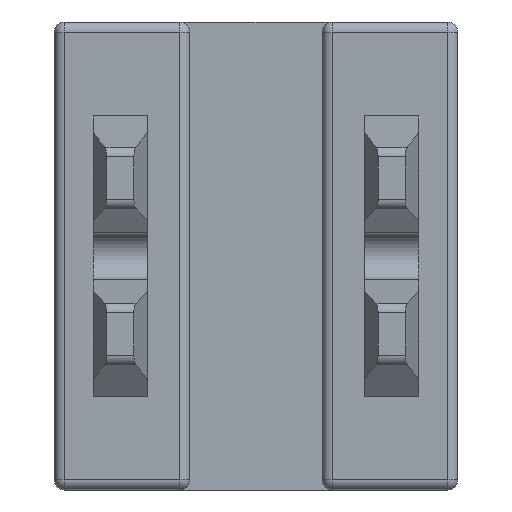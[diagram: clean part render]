
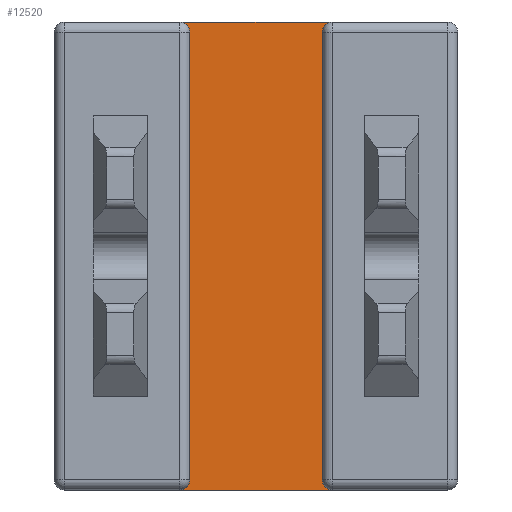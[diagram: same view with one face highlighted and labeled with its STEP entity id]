
A CAD part, front view. The second image highlights one B-rep face of the part: STEP entity #12520.
In plain terms, the highlighted planar face has unit normal (0, -1, 0).
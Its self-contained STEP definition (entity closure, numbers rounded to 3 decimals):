
#674 = DIRECTION ( 'NONE',  ( 0., 1., 0. ) ) ;
#725 = DIRECTION ( 'NONE',  ( 0., 0., -1. ) ) ;
#735 = DIRECTION ( 'NONE',  ( 0., 0., -1. ) ) ;
#988 = ORIENTED_EDGE ( 'NONE', *, *, #9536, .T. ) ;
#1054 = ORIENTED_EDGE ( 'NONE', *, *, #11348, .T. ) ;
#1108 = VECTOR ( 'NONE', #14407, 1000. ) ;
#1340 = CARTESIAN_POINT ( 'NONE',  ( 2.25, -15.5, -0.3 ) ) ;
#1492 = CARTESIAN_POINT ( 'NONE',  ( 1.95, -15.5, -13.8 ) ) ;
#1939 = VECTOR ( 'NONE', #8074, 1000. ) ;
#1974 = EDGE_CURVE ( 'NONE', #9831, #2101, #10113, .T. ) ;
#2042 = EDGE_CURVE ( 'NONE', #4751, #3419, #12287, .T. ) ;
#2054 = AXIS2_PLACEMENT_3D ( 'NONE', #1340, #2447, #7154 ) ;
#2101 = VERTEX_POINT ( 'NONE', #5265 ) ;
#2147 = EDGE_CURVE ( 'NONE', #8389, #2101, #7379, .T. ) ;
#2208 = DIRECTION ( 'NONE',  ( 0., 0., -1. ) ) ;
#2447 = DIRECTION ( 'NONE',  ( 0., 1., 0. ) ) ;
#2713 = CARTESIAN_POINT ( 'NONE',  ( -1.95, -15.5, -13.5 ) ) ;
#3030 = DIRECTION ( 'NONE',  ( 0., 1., 0. ) ) ;
#3265 = EDGE_CURVE ( 'NONE', #12210, #4751, #7629, .T. ) ;
#3364 = CARTESIAN_POINT ( 'NONE',  ( -2.25, -15.5, -13.5 ) ) ;
#3419 = VERTEX_POINT ( 'NONE', #4496 ) ;
#3855 = CARTESIAN_POINT ( 'NONE',  ( 1.95, -15.5, -13.8 ) ) ;
#3963 = ORIENTED_EDGE ( 'NONE', *, *, #2042, .T. ) ;
#4027 = DIRECTION ( 'NONE',  ( 1., 0., 0. ) ) ;
#4114 = VERTEX_POINT ( 'NONE', #9575 ) ;
#4496 = CARTESIAN_POINT ( 'NONE',  ( 2.25, -15.5, 0. ) ) ;
#4546 = PLANE ( 'NONE',  #8907 ) ;
#4708 = CARTESIAN_POINT ( 'NONE',  ( 1.95, -15.5, -0.3 ) ) ;
#4751 = VERTEX_POINT ( 'NONE', #4708 ) ;
#5265 = CARTESIAN_POINT ( 'NONE',  ( -1.95, -15.5, -0.3 ) ) ;
#6101 = CIRCLE ( 'NONE', #8247, 0.3 ) ;
#7025 = LINE ( 'NONE', #1492, #12844 ) ;
#7154 = DIRECTION ( 'NONE',  ( 0., 0., -1. ) ) ;
#7322 = CARTESIAN_POINT ( 'NONE',  ( 2.25, -15.5, -13.8 ) ) ;
#7379 = CIRCLE ( 'NONE', #14457, 0.3 ) ;
#7629 = LINE ( 'NONE', #3855, #1108 ) ;
#7782 = FACE_OUTER_BOUND ( 'NONE', #9858, .T. ) ;
#8074 = DIRECTION ( 'NONE',  ( 0., 0., 1. ) ) ;
#8247 = AXIS2_PLACEMENT_3D ( 'NONE', #3364, #11600, #2208 ) ;
#8389 = VERTEX_POINT ( 'NONE', #8664 ) ;
#8457 = VECTOR ( 'NONE', #4027, 1000. ) ;
#8664 = CARTESIAN_POINT ( 'NONE',  ( -2.25, -15.5, 0. ) ) ;
#8860 = EDGE_CURVE ( 'NONE', #8389, #3419, #13783, .T. ) ;
#8907 = AXIS2_PLACEMENT_3D ( 'NONE', #12685, #14087, #11824 ) ;
#9536 = EDGE_CURVE ( 'NONE', #9831, #4114, #6101, .T. ) ;
#9575 = CARTESIAN_POINT ( 'NONE',  ( -2.25, -15.5, -13.8 ) ) ;
#9788 = ORIENTED_EDGE ( 'NONE', *, *, #3265, .T. ) ;
#9809 = CARTESIAN_POINT ( 'NONE',  ( -2.25, -15.5, -0.3 ) ) ;
#9810 = VERTEX_POINT ( 'NONE', #7322 ) ;
#9831 = VERTEX_POINT ( 'NONE', #2713 ) ;
#9858 = EDGE_LOOP ( 'NONE', ( #13787, #11139, #11676, #988, #10551, #1054, #9788, #3963 ) ) ;
#10113 = LINE ( 'NONE', #15020, #1939 ) ;
#10551 = ORIENTED_EDGE ( 'NONE', *, *, #14297, .T. ) ;
#10788 = DIRECTION ( 'NONE',  ( 1., 0., 0. ) ) ;
#11121 = CARTESIAN_POINT ( 'NONE',  ( 2.25, -15.5, -13.5 ) ) ;
#11139 = ORIENTED_EDGE ( 'NONE', *, *, #2147, .T. ) ;
#11348 = EDGE_CURVE ( 'NONE', #9810, #12210, #14274, .T. ) ;
#11600 = DIRECTION ( 'NONE',  ( 0., 1., 0. ) ) ;
#11676 = ORIENTED_EDGE ( 'NONE', *, *, #1974, .F. ) ;
#11824 = DIRECTION ( 'NONE',  ( 0., 0., -1. ) ) ;
#12210 = VERTEX_POINT ( 'NONE', #14416 ) ;
#12287 = CIRCLE ( 'NONE', #2054, 0.3 ) ;
#12520 = ADVANCED_FACE ( 'NONE', ( #7782 ), #4546, .T. ) ;
#12685 = CARTESIAN_POINT ( 'NONE',  ( 1.95, -15.5, -13.8 ) ) ;
#12844 = VECTOR ( 'NONE', #10788, 1000. ) ;
#13384 = CARTESIAN_POINT ( 'NONE',  ( 1.95, -15.5, 0. ) ) ;
#13751 = AXIS2_PLACEMENT_3D ( 'NONE', #11121, #674, #725 ) ;
#13783 = LINE ( 'NONE', #13384, #8457 ) ;
#13787 = ORIENTED_EDGE ( 'NONE', *, *, #8860, .F. ) ;
#14087 = DIRECTION ( 'NONE',  ( 0., -1., 0. ) ) ;
#14274 = CIRCLE ( 'NONE', #13751, 0.3 ) ;
#14297 = EDGE_CURVE ( 'NONE', #4114, #9810, #7025, .T. ) ;
#14407 = DIRECTION ( 'NONE',  ( 0., 0., 1. ) ) ;
#14416 = CARTESIAN_POINT ( 'NONE',  ( 1.95, -15.5, -13.5 ) ) ;
#14457 = AXIS2_PLACEMENT_3D ( 'NONE', #9809, #3030, #735 ) ;
#15020 = CARTESIAN_POINT ( 'NONE',  ( -1.95, -15.5, -13.8 ) ) ;
